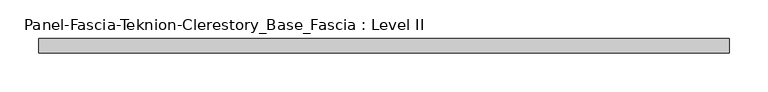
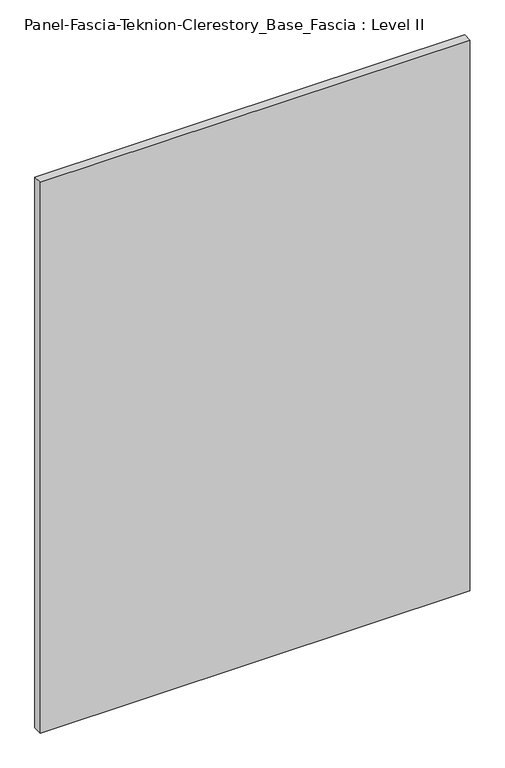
"""IFC4 building model written with IfcOpenShell, lengths in millimetres: proxy geometry, Panel-Fascia-Teknion-Clerestory_Base_Fascia : Level II."""

from ifc_helpers import new_model, si_unit, frame, origin, place, context, project, spatial, polyline, outline, extrude, source, transform, mapped, element, save


def panel_fascia_teknion_clerestory_base_fascia_level_ii_690aed16(model_context):
    return source(origin(), model_context, "Body", "SweptSolid", [
        extrude(outline(polyline([(447.6198344, -9.525), (-447.6198344, -9.525), (-447.6198344, 9.525), (447.6198344, 9.525), (447.6198344, -9.525)])), frame((0.0, 0.0, 3.175), z_axis=(0.0, 0.0, 1.0), x_axis=(1.0, 0.0, 0.0)), (0.0, 0.0, 1.0), 1212.85),
    ])


if __name__ == "__main__":
    model = new_model("IFC4")
    model_context = context("Model", 3, world=origin())
    ifc_project = project(units=[si_unit("LENGTHUNIT", "METRE", prefix="MILLI")], contexts=[model_context])
    site = spatial("IfcSite", under=ifc_project)
    building = spatial("IfcBuilding", under=site)
    placement = place(None, origin())
    panel_fascia_teknion_clerestory_base_fascia_level_ii_shape = panel_fascia_teknion_clerestory_base_fascia_level_ii_690aed16(model_context)
    element("IfcBuildingElementProxy", 1, Name="Panel-Fascia-Teknion-Clerestory_Base_Fascia : Level II", ObjectType="Panel-Fascia-Teknion-Clerestory_Base_Fascia : Level II", at=placement, inside=building, context=model_context, shape_type="MappedRepresentation", body=[
        mapped(panel_fascia_teknion_clerestory_base_fascia_level_ii_shape, transform((0.0, 0.0, 0.0), x_axis=(1.0, 0.0, 0.0), y_axis=(0.0, 1.0, 0.0), z_axis=(0.0, 0.0, 1.0))),
    ])
    save(model, "model.ifc")
